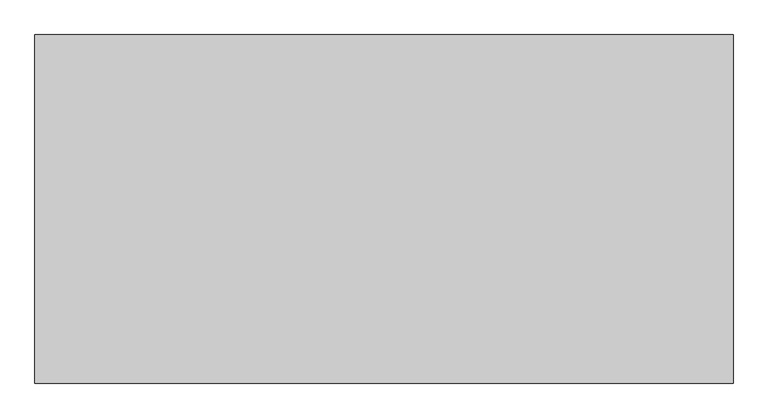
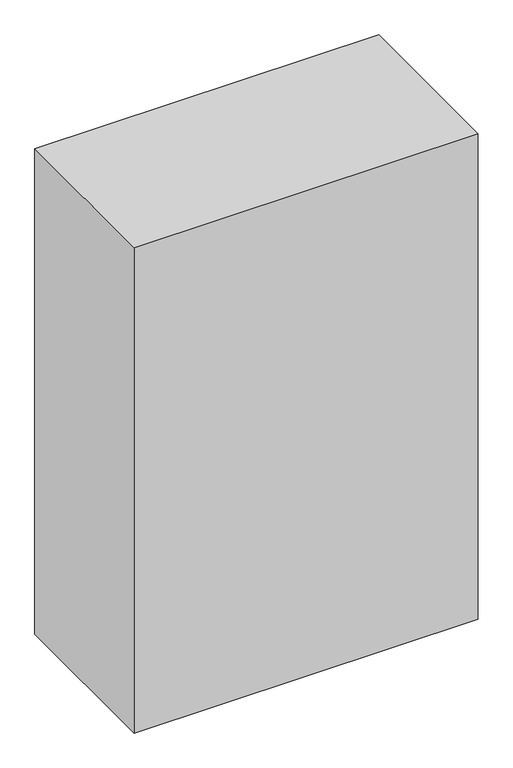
"""IFC4 building model written with IfcOpenShell, lengths in millimetres: furniture geometry, 5.3 Armario con vitrina : 5.3 Armario con vitrina."""

from ifc_helpers import new_model, si_unit, origin, origin_with_axes, place, context, project, spatial, polyline, outline, extrude, source, transform, mapped, element, save


def furniture_f4723014(model_context):
    return source(origin(), model_context, "Body", "SweptSolid", [
        extrude(outline(polyline([(600.0, 300.0), (600.0, -300.0), (-600.0, -300.0), (-600.0, 300.0), (600.0, 300.0)])), origin_with_axes(), (0.0, 0.0, 1.0), 1790.0),
    ])


if __name__ == "__main__":
    model = new_model("IFC4")
    model_context = context("Model", 3, world=origin())
    ifc_project = project(units=[si_unit("LENGTHUNIT", "METRE", prefix="MILLI")], contexts=[model_context])
    site = spatial("IfcSite", under=ifc_project)
    building = spatial("IfcBuilding", under=site)
    placement = place(None, origin())
    furniture_shape = furniture_f4723014(model_context)
    element("IfcFurniture", 1, ObjectType="5.3 Armario con vitrina : 5.3 Armario con vitrina", at=placement, inside=building, context=model_context, shape_type="MappedRepresentation", body=[
        mapped(furniture_shape, transform((0.0, 0.0, 0.0), x_axis=(1.0, 0.0, 0.0), y_axis=(0.0, 1.0, 0.0), z_axis=(0.0, 0.0, 1.0))),
    ])
    save(model, "model.ifc")
